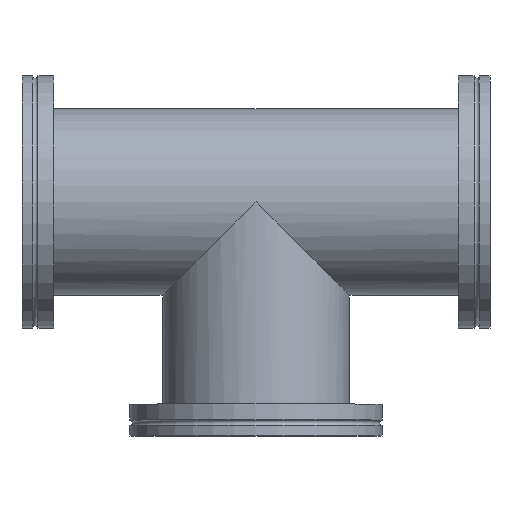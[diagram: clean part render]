
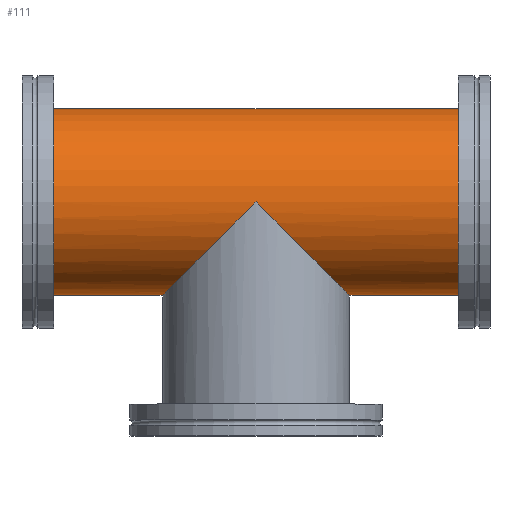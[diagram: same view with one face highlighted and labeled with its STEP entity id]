
A CAD part, top view. The second image highlights one B-rep face of the part: STEP entity #111.
In plain terms, the highlighted cylindrical face has radius 35 mm (diameter 70 mm), a full revolution.
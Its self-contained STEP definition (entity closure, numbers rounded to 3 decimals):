
#111 = ADVANCED_FACE( '', ( #199, #200, #201 ), #202, .T. );
#199 = FACE_BOUND( '', #291, .T. );
#200 = FACE_OUTER_BOUND( '', #292, .T. );
#201 = FACE_OUTER_BOUND( '', #293, .T. );
#202 = CYLINDRICAL_SURFACE( '', #294, 35. );
#291 = EDGE_LOOP( '', ( #380, #381 ) );
#292 = EDGE_LOOP( '', ( #382 ) );
#293 = EDGE_LOOP( '', ( #383 ) );
#294 = AXIS2_PLACEMENT_3D( '', #384, #385, #386 );
#380 = ORIENTED_EDGE( '', *, *, #481, .F. );
#381 = ORIENTED_EDGE( '', *, *, #480, .F. );
#382 = ORIENTED_EDGE( '', *, *, #489, .T. );
#383 = ORIENTED_EDGE( '', *, *, #490, .F. );
#384 = CARTESIAN_POINT( '', ( 80.5, 0., 0. ) );
#385 = DIRECTION( '', ( 1., 0., 0. ) );
#386 = DIRECTION( '', ( 0., 0., 1. ) );
#480 = EDGE_CURVE( '', #524, #525, #526, .T. );
#481 = EDGE_CURVE( '', #525, #524, #527, .F. );
#489 = EDGE_CURVE( '', #539, #539, #540, .T. );
#490 = EDGE_CURVE( '', #541, #541, #542, .T. );
#524 = VERTEX_POINT( '', #587 );
#525 = VERTEX_POINT( '', #588 );
#526 = ELLIPSE( '', #589, 49.497, 35. );
#527 = ELLIPSE( '', #590, 49.497, 35. );
#539 = VERTEX_POINT( '', #602 );
#540 = CIRCLE( '', #603, 35. );
#541 = VERTEX_POINT( '', #604 );
#542 = CIRCLE( '', #605, 35. );
#587 = CARTESIAN_POINT( '', ( 0., 0., -35. ) );
#588 = CARTESIAN_POINT( '', ( 0., 0., 35. ) );
#589 = AXIS2_PLACEMENT_3D( '', #651, #652, #653 );
#590 = AXIS2_PLACEMENT_3D( '', #654, #655, #656 );
#602 = CARTESIAN_POINT( '', ( 80.5, 35., 0. ) );
#603 = AXIS2_PLACEMENT_3D( '', #669, #670, #671 );
#604 = CARTESIAN_POINT( '', ( -80.5, 35., 0. ) );
#605 = AXIS2_PLACEMENT_3D( '', #672, #673, #674 );
#651 = CARTESIAN_POINT( '', ( 0., 0., 0. ) );
#652 = DIRECTION( '', ( -0.707, -0.707, 0. ) );
#653 = DIRECTION( '', ( -0.707, 0.707, 0. ) );
#654 = CARTESIAN_POINT( '', ( 0., 0., 0. ) );
#655 = DIRECTION( '', ( -0.707, 0.707, 0. ) );
#656 = DIRECTION( '', ( -0.707, -0.707, 0. ) );
#669 = CARTESIAN_POINT( '', ( 80.5, 0., 0. ) );
#670 = DIRECTION( '', ( -1., 0., 0. ) );
#671 = DIRECTION( '', ( 0., 1., 0. ) );
#672 = CARTESIAN_POINT( '', ( -80.5, 0., 0. ) );
#673 = DIRECTION( '', ( -1., 0., 0. ) );
#674 = DIRECTION( '', ( 0., 1., 0. ) );
